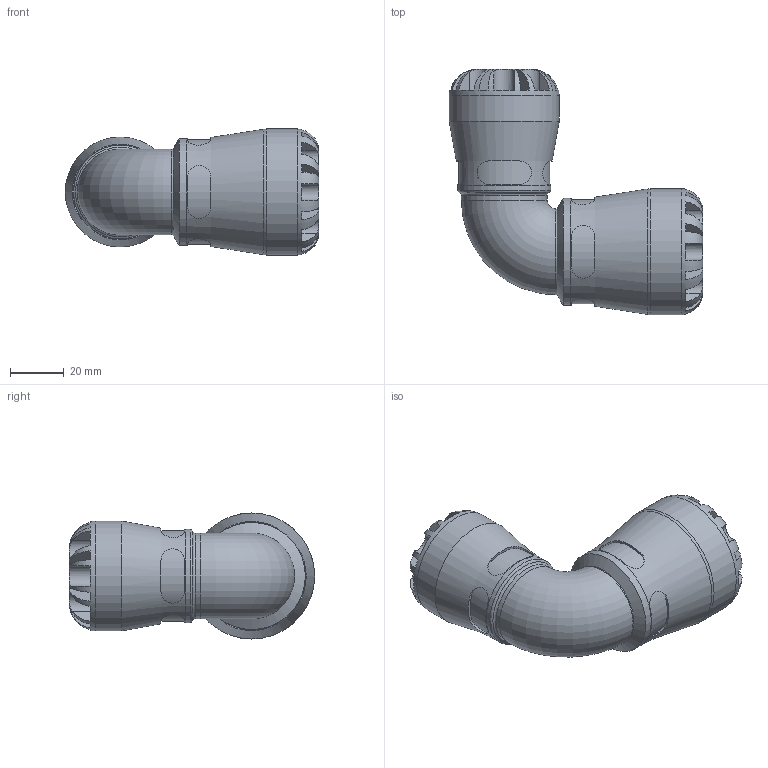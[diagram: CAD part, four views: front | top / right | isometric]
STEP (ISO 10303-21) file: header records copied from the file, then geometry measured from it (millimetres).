
FILE_DESCRIPTION(/* description */ ('PLASSON 90° ELBOW METRIC TO IMPERIAL 25X1/2" SERIES 1'),/* implementation_level */ '2;1');
FILE_NAME(/* name */ 'C:\Dropbox\KIMPROJECTS-Inventor\99-16-3568-Processing\1005M\1005M6025005.ipt.stp',/* time_stamp */ '2017-01-22T11:48:04+02:00',/* author */ ('KIM'),/* organization */ (''),/* preprocessor_version */ 'ST-DEVELOPER v15.6',/* originating_system */ 'Autodesk Inventor 2015',/* authorisation */ '');
FILE_SCHEMA (('AUTOMOTIVE_DESIGN { 1 0 10303 214 3 1 1 }'));
Length unit declared in the file: millimetre
Products named in the file (1): 1005M6025005
Bounding box: 94.5 x 91.5 x 47 mm (x, y, z)
Volume: 118432.8 mm3; surface area: 28600.7 mm2
Topology: 1 solids, 1 shells, 194 faces, 492 edges, 308 vertices
Faces by surface type: plane 116, cylinder 66, torus 9, cone 3
Full cylindrical faces by diameter (mm): 10.583 x2, 12.7 x1, 25 x1, 31.98 x2, 34.85 x1, 39.95 x1, 41 x1, 47 x1
Entity records: 7422 total; most frequent: CARTESIAN_POINT 2827, ORIENTED_EDGE 912, DIRECTION 886, EDGE_CURVE 456, AXIS2_PLACEMENT_3D 363, VERTEX_POINT 296, EDGE_LOOP 228, STYLED_ITEM 195
